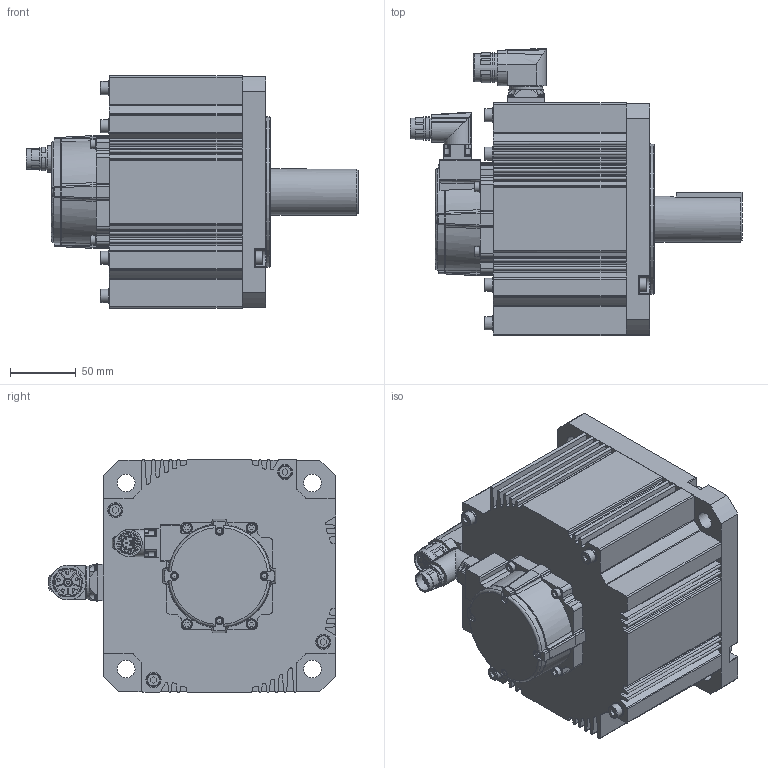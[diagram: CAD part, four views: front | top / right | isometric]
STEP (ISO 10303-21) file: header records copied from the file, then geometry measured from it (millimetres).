
FILE_DESCRIPTION(/* description */ ('STEP AP203'),/* implementation_level */ '2;1');
FILE_NAME(/* name */ 'MDMF404L1G9M',/* time_stamp */ '2026-06-09T14:00:33+02:00',/* author */ ('License CC BY-ND 4.0'),/* organization */ ('CADENAS'),/* preprocessor_version */ 'ST-DEVELOPER v20',/* originating_system */ 'PARTsolutions',/* authorisation */ ' ');
FILE_SCHEMA (('CONFIG_CONTROL_DESIGN'));
Length unit declared in the file: millimetre
Products named in the file (4): MDMF404L1G9M; MDMF404L1G9M-motor; BGC106N00001200000; AGC047N0000150A000_EC
Assembly tree (3 placements, depth 2):
  MDMF404L1G9M
    MDMF404L1G9M-motor
    BGC106N00001200000
    AGC047N0000150A000_EC
Bounding box: 252.25 x 218.1 x 176.6 mm (x, y, z)
Volume: 3670553.3 mm3; surface area: 216943.4 mm2
Topology: 3 solids, 3 shells, 1061 faces, 2788 edges, 1818 vertices
Faces by surface type: plane 564, cylinder 372, bspline 45, cone 45, torus 23, sphere 12
Full cylindrical faces by diameter (mm): 1.25 x12, 2.232 x6, 2.459 x1, 2.8 x1, 5.5 x5, 6 x4, 7 x4, 8 x4, 10 x8, 11.5 x8, 13.4 x1, 13.5 x4, 15.54 x1, 16 x1, 16.2 x1, 19.7 x1, 21.6 x1, 24.1 x1, 35 x1, 52 x1, 114.3 x1
Entity records: 32735 total; most frequent: CARTESIAN_POINT 6705, DIRECTION 5516, ORIENTED_EDGE 5248, EDGE_CURVE 2624, AXIS2_PLACEMENT_3D 2011, VERTEX_POINT 1771, LINE 1494, VECTOR 1494
